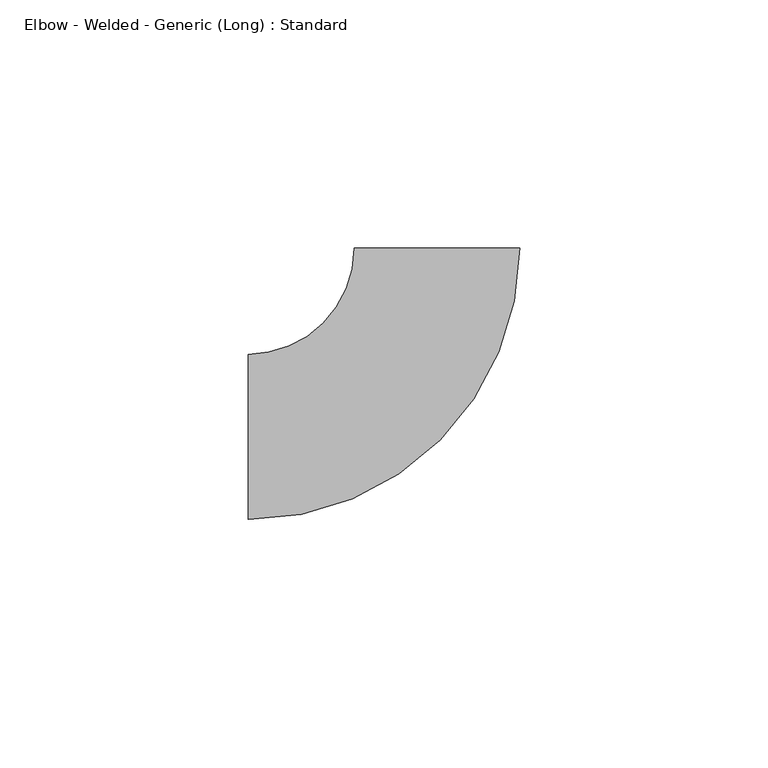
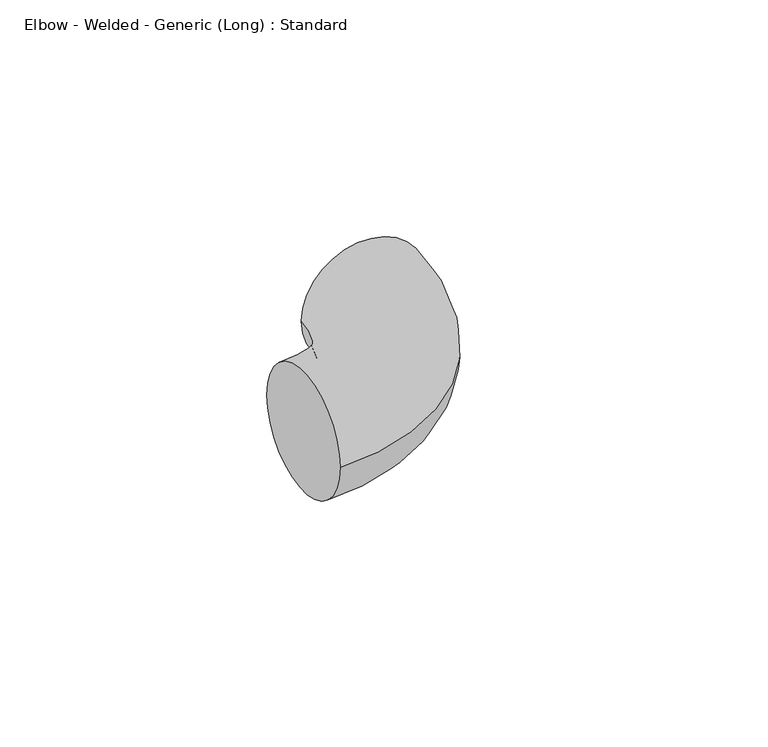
"""IFC4 building model written with IfcOpenShell, lengths in millimetres: pipe fitting geometry, Elbow - Welded - Generic (Long) : Standard."""

from ifc_helpers import new_model, si_unit, point, frame, origin, place, context, project, spatial, circle_curve, ellipse_curve, trimmed, source, transform, mapped, element, save
from ifc_brep_helpers import plane_surface, revolved_surface, advanced_brep


def elbow_welded_generic_long_standard_b573be62(model_context):
    return source(origin(), model_context, "Body", "AdvancedBrep", [
        advanced_brep(
        [(-38.1, -16.66875, 0.0), (-38.1, 16.66875, 0.0), (16.6125336, 38.1245453, 0.0), (-16.7249301, 38.0753718, 0.0)],
        [
            (0, 1, circle_curve(frame((-38.1, 0.0, 0.0), z_axis=(-1.0, 0.0, 0.0), x_axis=(0.0, 1.0, 0.0)), 16.66875)),
            (1, 0, circle_curve(frame((-38.1, 0.0, 0.0), z_axis=(-1.0, 0.0, 0.0), x_axis=(0.0, 1.0, 0.0)), 16.66875)),
            (2, 3, circle_curve(frame((-0.0561982, 38.0999586, 0.0), z_axis=(-0.0014750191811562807, 0.9999989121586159, 0.0), x_axis=(-0.9999989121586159, -0.0014750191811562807, 0.0)), 16.66875)),
            (3, 2, circle_curve(frame((-0.0561982, 38.0999586, 0.0), z_axis=(-0.0014750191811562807, 0.9999989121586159, 0.0), x_axis=(-0.9999989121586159, -0.0014750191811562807, 0.0)), 16.66875)),
            (3, 1, circle_curve(frame((-38.1, 38.0438432, 0.0), z_axis=(0.0, 0.0, -1.0), x_axis=(0.0, -1.0, 0.0)), 21.3750932)),
            (0, 2, circle_curve(frame((-38.1, 38.0438432, 0.0), z_axis=(0.0, 0.0, 1.0), x_axis=(0.0, -1.0, 0.0)), 54.7125932)),
        ],
        [
            plane_surface(frame((-38.1, 0.0, 0.0), z_axis=(-1.0, 0.0, 0.0), x_axis=(0.0, 0.0, 1.0))),
            plane_surface(frame((-0.0561982, 38.0999586, 0.0), z_axis=(-0.0014750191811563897, 0.9999989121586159, 0.0), x_axis=(0.0, 0.0, 1.0))),
            revolved_surface(trimmed(ellipse_curve(frame((-38.1, 0.0, 0.0), z_axis=(-1.0, 0.0, 0.0), x_axis=(0.0, 1.0, 0.0)), 16.66875, 16.66875), [point((-38.1, -16.66875, 0.0))], [point((-38.1, 16.66875, 0.0))], True, "CARTESIAN"), (-38.1, 38.0438432, 0.0), (0.0, 0.0, 1.0)),
            revolved_surface(trimmed(ellipse_curve(frame((-38.1, 0.0, 0.0), z_axis=(-1.0, 0.0, 0.0), x_axis=(0.0, 1.0, 0.0)), 16.66875, 16.66875), [point((-38.1, 16.66875, 0.0))], [point((-38.1, -16.66875, 0.0))], True, "CARTESIAN"), (-38.1, 38.0438432, 0.0), (0.0, 0.0, 1.0)),
        ],
        [
            (0, [[1, 2]]),
            (1, [[3, 4]]),
            (2, [[5, -1, 6, -4]]),
            (3, [[-6, -2, -5, -3]]),
        ],
    ),
    ])


if __name__ == "__main__":
    model = new_model("IFC4")
    model_context = context("Model", 3, world=origin())
    ifc_project = project(units=[si_unit("LENGTHUNIT", "METRE", prefix="MILLI")], contexts=[model_context])
    site = spatial("IfcSite", under=ifc_project)
    building = spatial("IfcBuilding", under=site)
    placement = place(None, origin())
    elbow_welded_generic_long_standard_shape = elbow_welded_generic_long_standard_b573be62(model_context)
    element("IfcPipeFitting", 1, ObjectType="Elbow - Welded - Generic (Long) : Standard", at=placement, inside=building, context=model_context, shape_type="MappedRepresentation", body=[
        mapped(elbow_welded_generic_long_standard_shape, transform((0.0, 0.0, 0.0), x_axis=(1.0, 0.0, 0.0), y_axis=(0.0, 1.0, 0.0), z_axis=(0.0, 0.0, 1.0))),
    ])
    save(model, "model.ifc")
